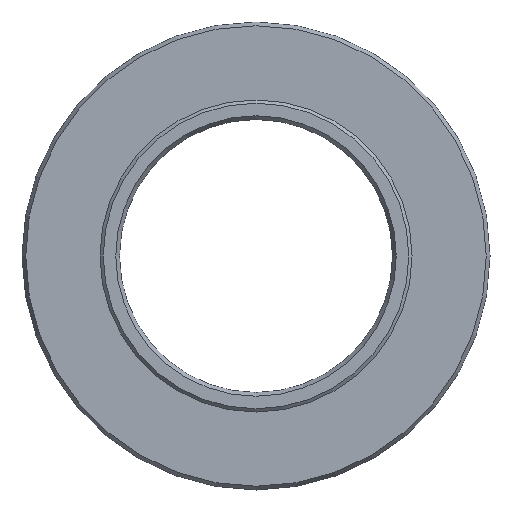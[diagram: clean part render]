
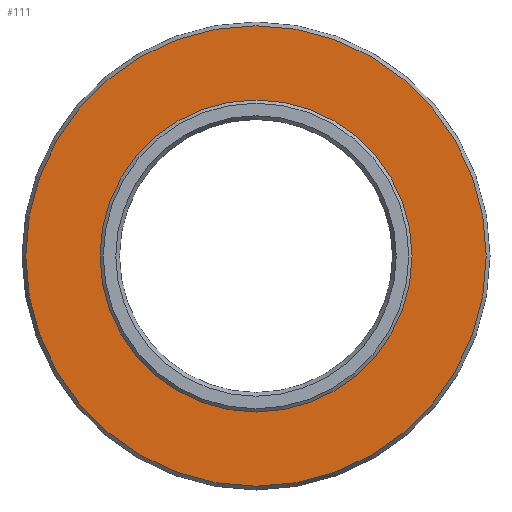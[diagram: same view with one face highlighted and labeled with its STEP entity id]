
A CAD part, left-side view. The second image highlights one B-rep face of the part: STEP entity #111.
In plain terms, the highlighted planar face has unit normal (-1, 0, 0).
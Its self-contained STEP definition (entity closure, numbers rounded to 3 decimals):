
#97=PLANE('',#323);
#111=ADVANCED_FACE('',(#144,#145),#97,.T.);
#144=FACE_BOUND('',#175,.T.);
#145=FACE_BOUND('',#176,.T.);
#175=EDGE_LOOP('',(#214));
#176=EDGE_LOOP('',(#215));
#214=ORIENTED_EDGE('',*,*,#279,.T.);
#215=ORIENTED_EDGE('',*,*,#280,.T.);
#258=VERTEX_POINT('',#461);
#259=VERTEX_POINT('',#463);
#279=EDGE_CURVE('',#258,#258,#298,.T.);
#280=EDGE_CURVE('',#259,#259,#299,.T.);
#298=CIRCLE('',#321,35.423);
#299=CIRCLE('',#322,24.);
#321=AXIS2_PLACEMENT_3D('',#460,#369,#370);
#322=AXIS2_PLACEMENT_3D('',#462,#371,#372);
#323=AXIS2_PLACEMENT_3D('',#464,#373,#374);
#369=DIRECTION('',(-1.,0.,0.));
#370=DIRECTION('',(0.,0.,1.));
#371=DIRECTION('',(1.,0.,0.));
#372=DIRECTION('',(0.,0.,-1.));
#373=DIRECTION('',(-1.,0.,0.));
#374=DIRECTION('',(0.,0.,1.));
#460=CARTESIAN_POINT('',(0.,0.,0.));
#461=CARTESIAN_POINT('',(0.,0.,35.423));
#462=CARTESIAN_POINT('',(0.,0.,0.));
#463=CARTESIAN_POINT('',(0.,0.,-24.));
#464=CARTESIAN_POINT('',(0.,36.,0.));
